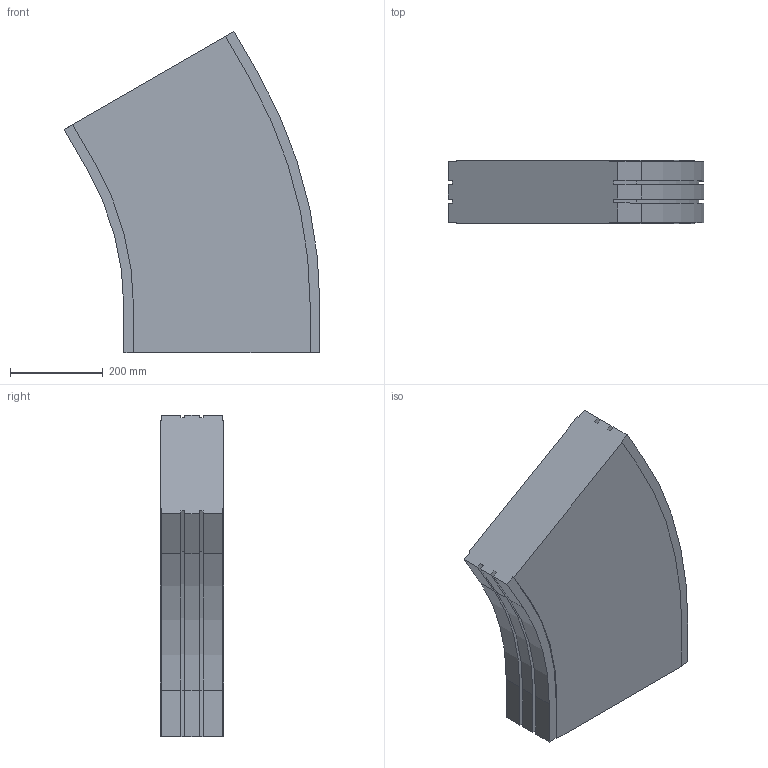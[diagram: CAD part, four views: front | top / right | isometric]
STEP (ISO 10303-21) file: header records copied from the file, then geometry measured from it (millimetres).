
FILE_DESCRIPTION (( 'STEP AP214' ), '1' );
FILE_NAME ('02.150H30.420.N FS-MTC-150 Bocht horizontaal 30°.STEP', '2013-03-29T11:16:01', ( 'Gebruiker' ), ( '' ), 'SwSTEP 2.0', 'SolidWorks 2012', '' );
FILE_SCHEMA (( 'AUTOMOTIVE_DESIGN' ));
Length unit declared in the file: millimetre
Products named in the file (1): 02.150H30.420.N FS-MTC-150 Bocht horizontaal 30°
Bounding box: 551.84 x 136 x 692.35 mm (x, y, z)
Volume: 35241446.9 mm3; surface area: 860256.1 mm2
Topology: 1 solids, 1 shells, 58 faces, 168 edges, 112 vertices
Faces by surface type: plane 44, cylinder 14
Entity records: 1934 total; most frequent: CARTESIAN_POINT 339, ORIENTED_EDGE 336, DIRECTION 314, EDGE_CURVE 168, LINE 140, VECTOR 140, VERTEX_POINT 112, AXIS2_PLACEMENT_3D 87
